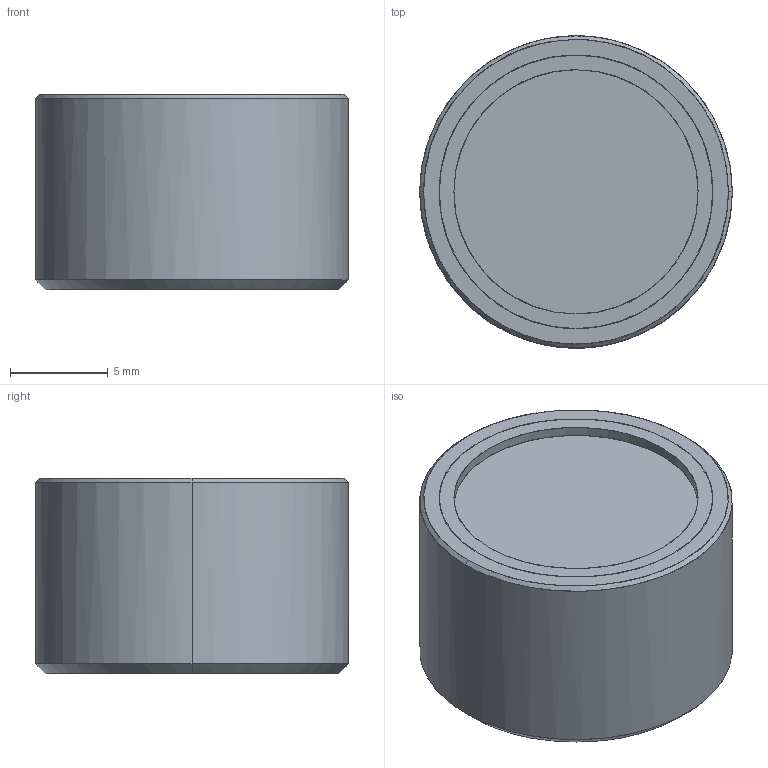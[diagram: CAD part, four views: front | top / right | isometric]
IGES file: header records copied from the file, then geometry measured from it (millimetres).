
Global section: file name: E:\UnigraphicsGraphicData\MISUMI_PRESS-PARTS\IGES\3d_hxu16_00549_r00.igs; native system: NX V5.0; preprocessor: UGS NX IGES V5.0; author: MISUMI; date: 20110105.161100; units: millimetre
Bounding box: 16 x 15.99 x 10 mm (x, y, z)
Surface area: 1816 mm2 (no closed solid volume)
Topology: 0 solids, 0 shells, 26 faces, 184 edges, 184 vertices
Faces by surface type: bspline 26
